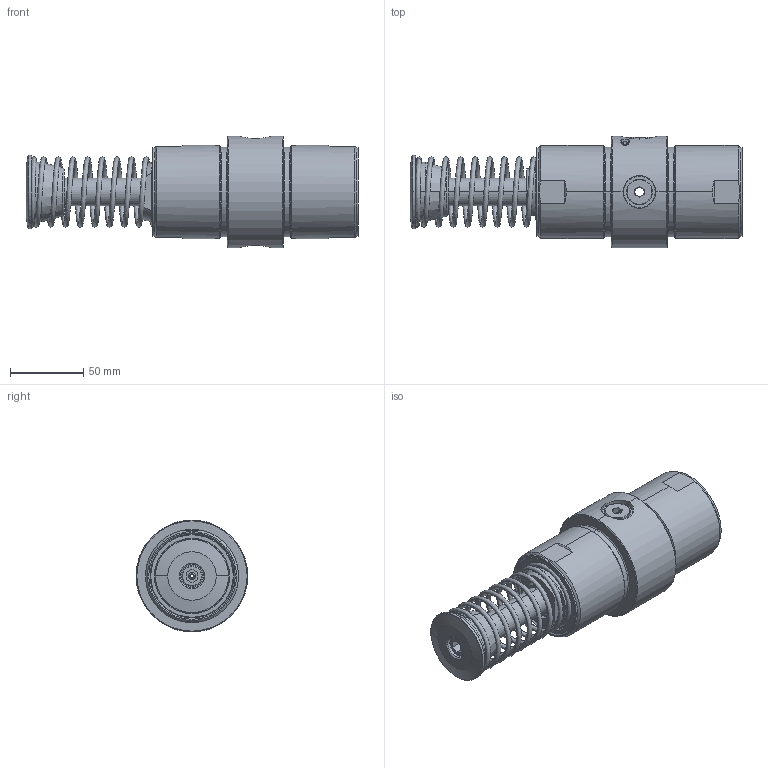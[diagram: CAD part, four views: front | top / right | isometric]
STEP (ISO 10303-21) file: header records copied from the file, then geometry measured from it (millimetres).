
FILE_DESCRIPTION (( 'STEP AP203' ), '1' );
FILE_NAME ('OEMXT 2.0M X 2.STEP', '2009-03-25T15:05:39', ( ' ' ), ( '' ), 'SwSTEP 2.0', 'SolidWorks 2006233', '' );
FILE_SCHEMA (( 'CONFIG_CONTROL_DESIGN' ));
Length unit declared in the file: inch
Products named in the file (1): OEMXT 2.0M X 2
Bounding box: 226.14 x 76.07 x 76.07 mm (x, y, z)
Surface area: 71231.9 mm2 (no closed solid volume)
Topology: 0 solids, 28 shells, 224 faces, 877 edges, 680 vertices
Faces by surface type: plane 91, cylinder 59, cone 46, torus 17, bspline 11
Entity records: 16736 total; most frequent: CARTESIAN_POINT 9797, ORIENTED_EDGE 1303, DIRECTION 1283, EDGE_CURVE 877, VERTEX_POINT 680, AXIS2_PLACEMENT_3D 444, VECTOR 395, LINE 395
